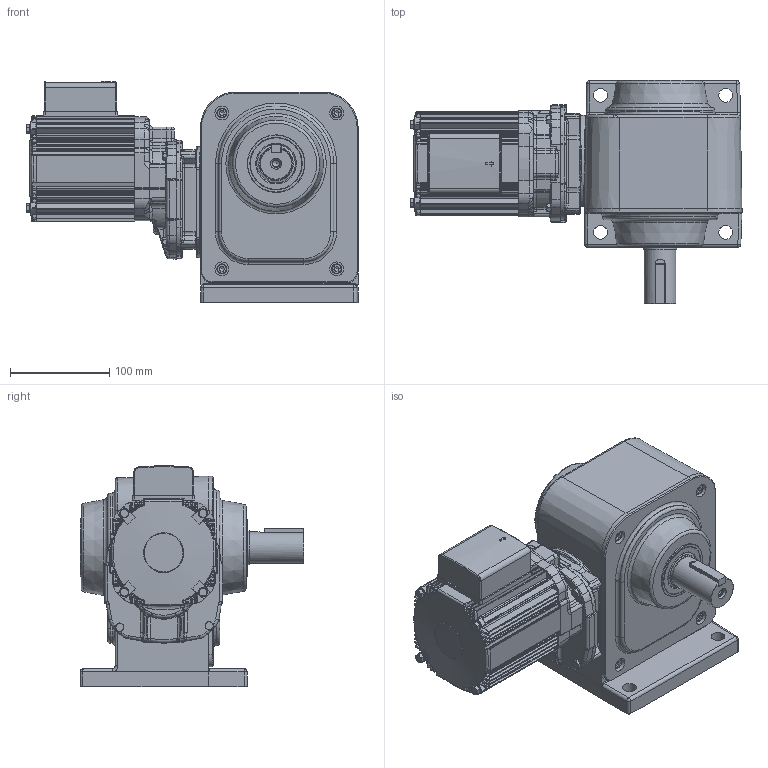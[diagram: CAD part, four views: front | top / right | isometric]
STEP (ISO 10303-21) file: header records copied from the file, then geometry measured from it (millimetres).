
FILE_DESCRIPTION( ( 'Unknown' ), '1' );
FILE_NAME( 'W:/gm/3D-WEB/GM-SHY/完成品/パーツ/完成品/三相/shyrr_01_1200-1440.stp', 'Unknown', ( 'Unknown' ), ( 'Unknown' ), 'PSStep 11.0', 'Unknown', ' ' );
FILE_SCHEMA( ( 'AUTOMOTIVE_DESIGN { 1 0 10303 214 1 1 1 1 }' ) );
Length unit declared in the file: millimetre
Products named in the file (1): P265320_衛偯枆參(0.1,0.2kW 63Fr)
Bounding box: 334.3 x 225 x 222.88 mm (x, y, z)
Volume: 5579373.8 mm3; surface area: 401268 mm2
Topology: 1 solids, 19 shells, 1857 faces, 4697 edges, 2890 vertices
Faces by surface type: plane 729, cylinder 598, torus 254, bspline 157, cone 105, sphere 14
Full cylindrical faces by diameter (mm): 3.3 x4, 4.134 x12, 4.5 x4, 4.8 x4, 4.917 x8, 5 x8, 5.5 x8, 6.647 x1, 8.2 x1, 8.5 x4, 10 x4, 12 x3, 14 x8, 15 x1, 16 x1, 30 x1, 32 x1, 34 x2, 40 x1, 45 x1, 48 x1, 52 x4, 58 x2, 100.5 x2
Entity records: 101321 total; most frequent: CARTESIAN_POINT 43192, DIRECTION 9267, ORIENTED_EDGE 8934, EDGE_CURVE 4467, AXIS2_PLACEMENT_3D 3713, VERTEX_POINT 2831, EDGE_LOOP 2065, FACE_OUTER_BOUND 1963
